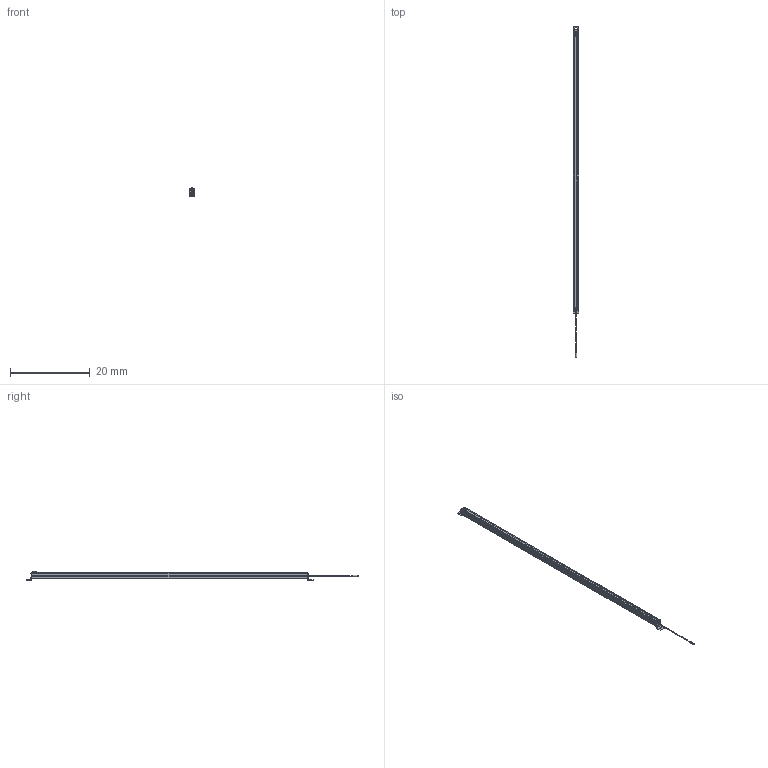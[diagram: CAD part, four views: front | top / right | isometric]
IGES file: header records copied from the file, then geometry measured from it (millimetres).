
Start section:  Autodesk DirectConnect version 7.0.27.0 ---- IGES version 5.3
Global section: file name: C:\ACADFILES\SS_PYLONS\CUSTOMER_FILES\SS-68-PYLON_3D_L.iges; native system: Autodesk DirectConnect 7.0.27.0; preprocessor: 7.0.27.0; author: ENGINEERMAIN; organization: Unknown; date: 20150810.125940; units: millimetre
Bounding box: 1.46 x 83.52 x 2.11 mm (x, y, z)
Surface area: 1024.7 mm2 (no closed solid volume)
Topology: 0 solids, 0 shells, 475 faces, 2604 edges, 2623 vertices
Faces by surface type: bspline 475
